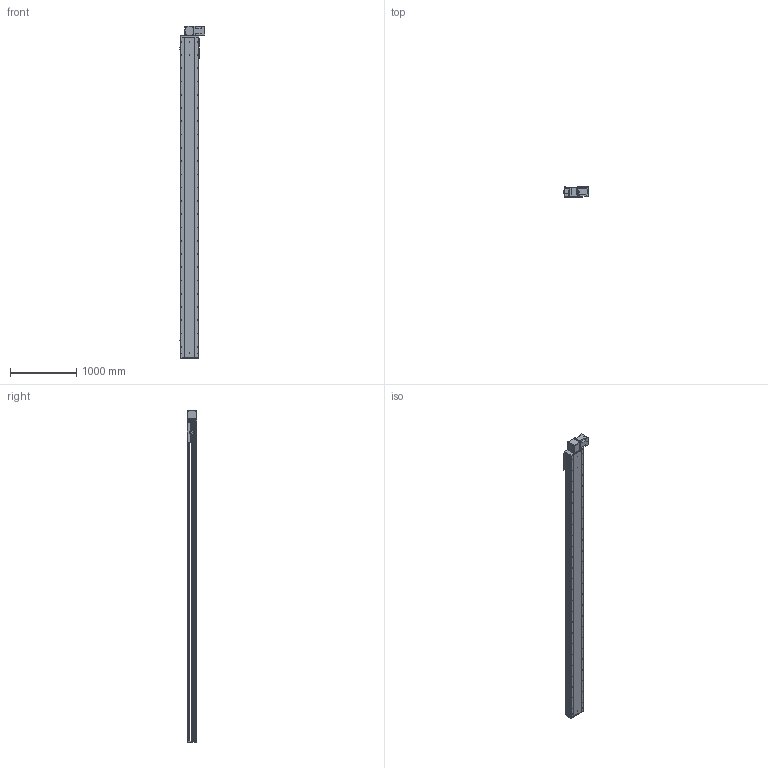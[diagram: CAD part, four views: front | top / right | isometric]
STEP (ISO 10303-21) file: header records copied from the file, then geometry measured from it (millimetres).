
FILE_DESCRIPTION (( 'STEP AP214' ), '1' );
FILE_NAME ('RTB28S-XX-4400-BL-M100-XX-C4.STEP', '2025-12-22T02:45:44', ( '' ), ( '' ), 'SwSTEP 2.0', 'SolidWorks 2018', '' );
FILE_SCHEMA (( 'AUTOMOTIVE_DESIGN' ));
Length unit declared in the file: millimetre
Products named in the file (4): RTB28S-GY-004^RTB28S-XX-XX-BL-M100-XX-C4; RTB28S-GY-011^RTB28S-XX-XX-BL-M100-XX-C4; RTB28S-GY-008^RTB28S-XX-XX-BL-M100-XX-C4; RTB28S-XX-4400-BL-M100-XX-C4
Assembly tree (3 placements, depth 2):
  RTB28S-XX-4400-BL-M100-XX-C4
    RTB28S-GY-011^RTB28S-XX-XX-BL-M100-XX-C4
    RTB28S-GY-004^RTB28S-XX-XX-BL-M100-XX-C4
    RTB28S-GY-008^RTB28S-XX-XX-BL-M100-XX-C4
Bounding box: 380.7 x 145 x 5007 mm (x, y, z)
Volume: 83155631.5 mm3; surface area: 7693614.2 mm2
Topology: 3 solids, 4 shells, 958 faces, 2598 edges, 1668 vertices
Faces by surface type: cylinder 495, plane 379, cone 80, torus 4
Entity records: 37775 total; most frequent: CARTESIAN_POINT 7552, DIRECTION 5544, ORIENTED_EDGE 5132, EDGE_CURVE 2566, AXIS2_PLACEMENT_3D 2072, VERTEX_POINT 1668, VECTOR 1400, LINE 1400
